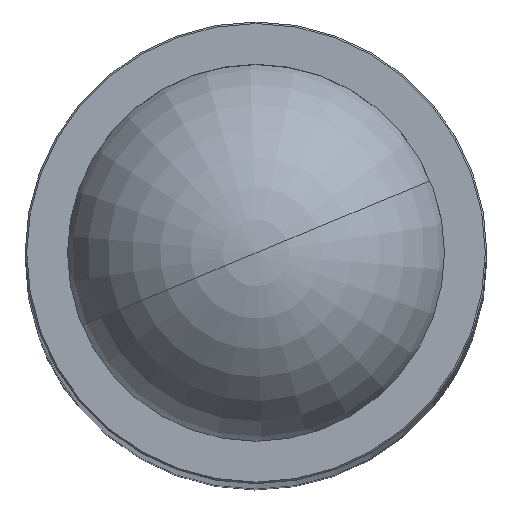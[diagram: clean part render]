
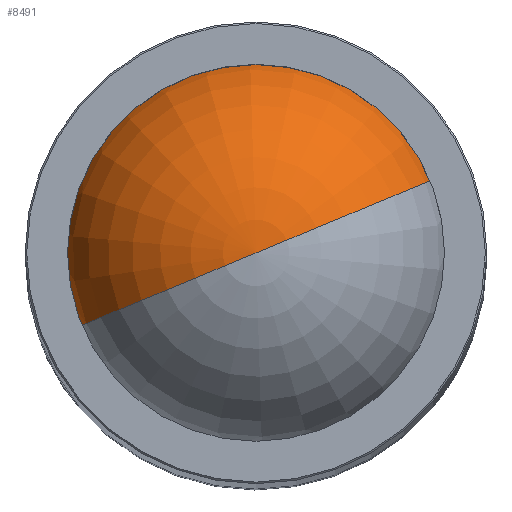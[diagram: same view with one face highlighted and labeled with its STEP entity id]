
A CAD part, top view. The second image highlights one B-rep face of the part: STEP entity #8491.
In plain terms, the highlighted toroidal (fillet/blend) face has major radius 0.044 mm and minor radius 12.882 mm.
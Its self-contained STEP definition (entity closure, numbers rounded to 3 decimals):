
#54 = DIRECTION ( 'NONE',  ( 0., -1., 0. ) ) ;
#145 = DIRECTION ( 'NONE',  ( 0., 0., -1. ) ) ;
#277 = CARTESIAN_POINT ( 'NONE',  ( 0.044, -0.082, 0. ) ) ;
#383 = CIRCLE ( 'NONE', #7410, 12.882 ) ;
#465 = CIRCLE ( 'NONE', #5435, 12.6 ) ;
#575 = EDGE_LOOP ( 'NONE', ( #2595, #5752, #7912, #8394 ) ) ;
#793 = DIRECTION ( 'NONE',  ( 0., 0., 1. ) ) ;
#907 = AXIS2_PLACEMENT_3D ( 'NONE', #7089, #2249, #793 ) ;
#1476 = DIRECTION ( 'NONE',  ( 0., 0., 1. ) ) ;
#1611 = DIRECTION ( 'NONE',  ( 1., 0., 0. ) ) ;
#2061 = CARTESIAN_POINT ( 'NONE',  ( -12.6, 2.8, 0. ) ) ;
#2210 = CARTESIAN_POINT ( 'NONE',  ( 12.6, 2.8, 0. ) ) ;
#2249 = DIRECTION ( 'NONE',  ( 0., 1., 0. ) ) ;
#2266 = EDGE_CURVE ( 'NONE', #8844, #6460, #465, .T. ) ;
#2595 = ORIENTED_EDGE ( 'NONE', *, *, #8146, .F. ) ;
#3411 = AXIS2_PLACEMENT_3D ( 'NONE', #277, #145, #7858 ) ;
#3535 = FACE_OUTER_BOUND ( 'NONE', #575, .T. ) ;
#3698 = AXIS2_PLACEMENT_3D ( 'NONE', #7634, #54, #8442 ) ;
#3992 = CIRCLE ( 'NONE', #3411, 12.882 ) ;
#4424 = CIRCLE ( 'NONE', #907, 12.6 ) ;
#4806 = EDGE_CURVE ( 'NONE', #6557, #8539, #383, .T. ) ;
#5435 = AXIS2_PLACEMENT_3D ( 'NONE', #7949, #6363, #8594 ) ;
#5663 = CARTESIAN_POINT ( 'NONE',  ( -0.044, -0.082, 0. ) ) ;
#5752 = ORIENTED_EDGE ( 'NONE', *, *, #4806, .T. ) ;
#6363 = DIRECTION ( 'NONE',  ( 0., 1., 0. ) ) ;
#6460 = VERTEX_POINT ( 'NONE', #2210 ) ;
#6557 = VERTEX_POINT ( 'NONE', #6814 ) ;
#6814 = CARTESIAN_POINT ( 'NONE',  ( 0., 12.8, 0. ) ) ;
#7050 = EDGE_CURVE ( 'NONE', #8539, #8844, #4424, .T. ) ;
#7089 = CARTESIAN_POINT ( 'NONE',  ( 0., 2.8, 0. ) ) ;
#7410 = AXIS2_PLACEMENT_3D ( 'NONE', #5663, #1476, #1611 ) ;
#7634 = CARTESIAN_POINT ( 'NONE',  ( 0., -0.082, 0. ) ) ;
#7683 = TOROIDAL_SURFACE ( 'NONE', #3698, 0.044, 12.882 ) ;
#7858 = DIRECTION ( 'NONE',  ( -1., 0., 0. ) ) ;
#7912 = ORIENTED_EDGE ( 'NONE', *, *, #7050, .T. ) ;
#7949 = CARTESIAN_POINT ( 'NONE',  ( 0., 2.8, 0. ) ) ;
#8146 = EDGE_CURVE ( 'NONE', #6557, #6460, #3992, .T. ) ;
#8394 = ORIENTED_EDGE ( 'NONE', *, *, #2266, .T. ) ;
#8442 = DIRECTION ( 'NONE',  ( 1., 0., 0. ) ) ;
#8491 = ADVANCED_FACE ( 'NONE', ( #3535 ), #7683, .T. ) ;
#8539 = VERTEX_POINT ( 'NONE', #2061 ) ;
#8594 = DIRECTION ( 'NONE',  ( 0., 0., 1. ) ) ;
#8753 = CARTESIAN_POINT ( 'NONE',  ( 0., 2.8, 12.6 ) ) ;
#8844 = VERTEX_POINT ( 'NONE', #8753 ) ;
